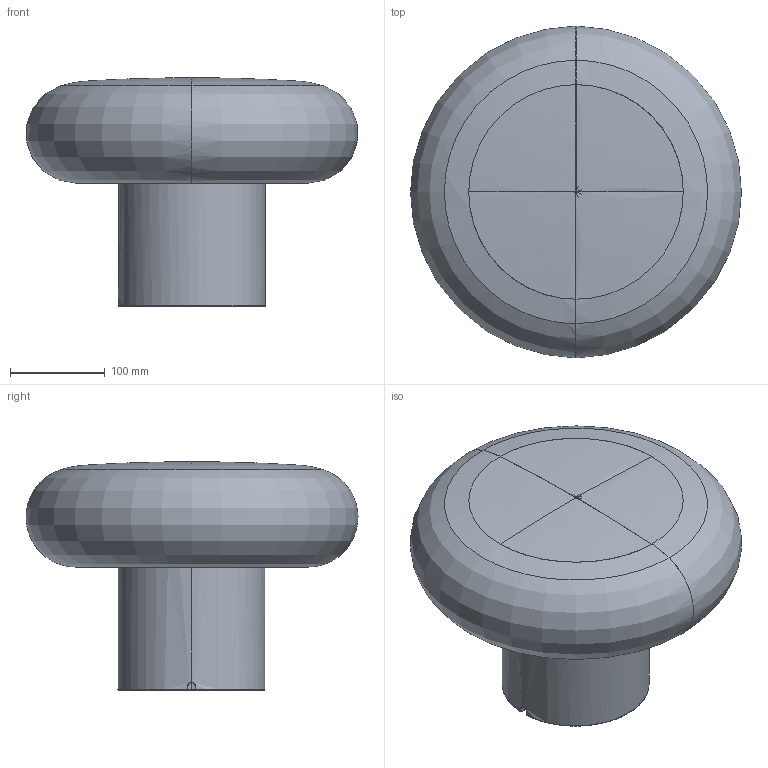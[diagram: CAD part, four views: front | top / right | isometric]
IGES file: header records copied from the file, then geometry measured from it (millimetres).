
Global section: file name: C:\Users\colombo_c\Desktop\Danese\Sito\3D mancanti\Itka base\Itka base.igs; native system: Rhinoceros ( Apr 16 2024 ); preprocessor: Trout Lake IGES 012 Apr 16 2024; date: 250718.101315; units: millimetre
Bounding box: 348.71 x 350 x 240.93 mm (x, y, z)
Surface area: 607825.6 mm2 (no closed solid volume)
Topology: 0 solids, 0 shells, 87 faces, 538 edges, 555 vertices
Faces by surface type: bspline 87
